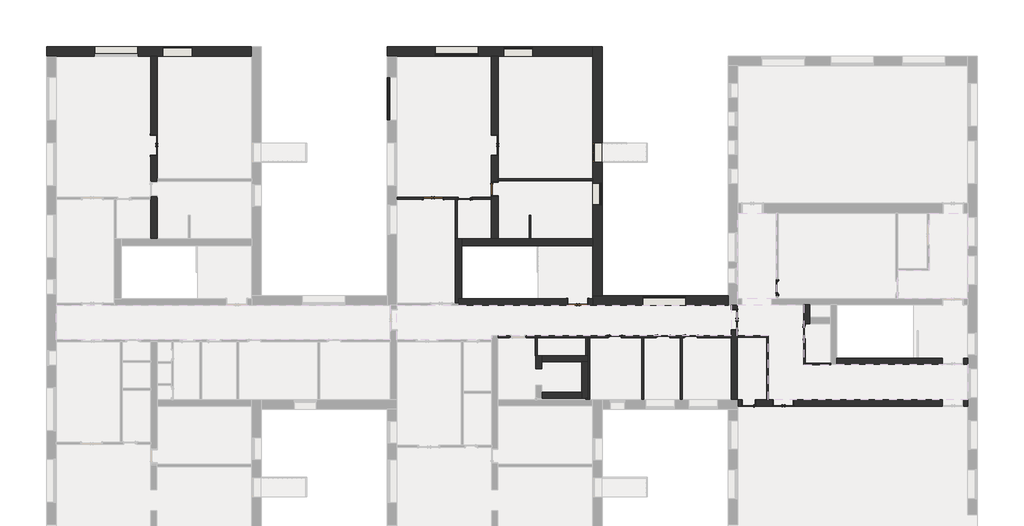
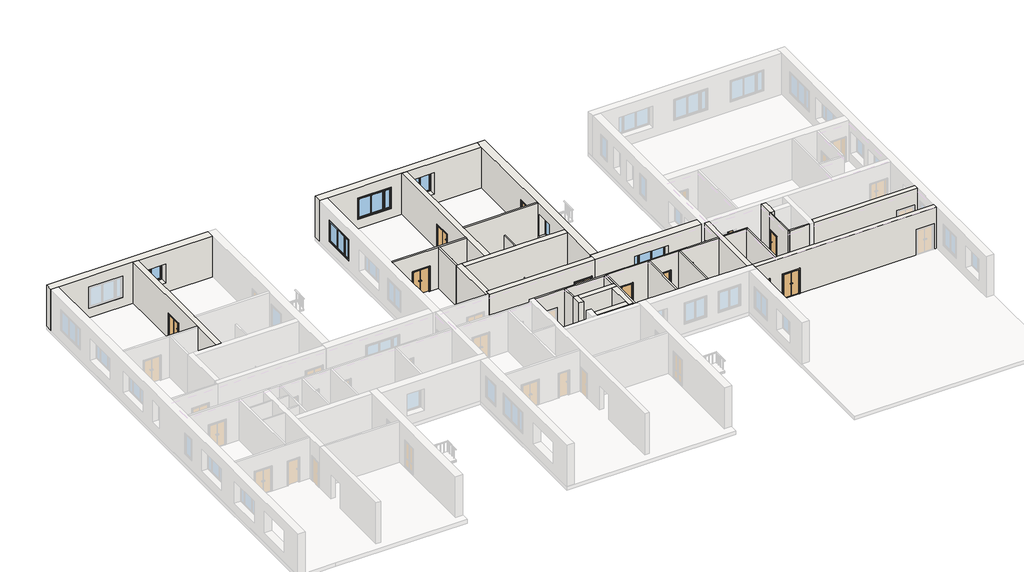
# One storey, part 3 of 4: 32 walls, 15 doors, 6 windows.
"""IFC4 building model written with IfcOpenShell, lengths in millimetres."""

from ifc_helpers import new_model, si_unit, frame, origin, place, context, project, spatial, polyline, outline, extrude, faceted_brep, transform, mapped, element, save
from components import door_6ba15531, door_6cda5d05, door_65913abd, door_dd7598a4, door_8e71c86a, door_276684d3, door_d1ce50e7, door_a652fb3b, door_3d735259, door_428ffb38, window_17d24cb2, window_91fb4078, window_825c4489, window_d8f3b313

model = new_model("IFC4")

# Units and contexts
model_context = context("Model", 3, world=origin())
ifc_project = project(units=[si_unit("LENGTHUNIT", "METRE", prefix="MILLI")], contexts=[model_context])

# Site, building, storey
site = spatial("IfcSite", under=ifc_project)
building = spatial("IfcBuilding", under=site)
storey = spatial("IfcBuildingStorey", under=building, Name="2 этаж", Elevation=3500.0)

# Doors
placement = place(None, origin())
door_shape = door_6ba15531(model_context)
element("IfcDoor", 1, ObjectType="Наружная дверь 2-Навесная - Один проем наружу с порогом - 31173-2003 : ДСН ДКН М2 2100-1300 ГОСТ 31173-2003", at=placement, inside=storey, context=model_context, shape_type="MappedRepresentation", body=[
    mapped(door_shape, transform((8337.6759979, 4.6370105, 3500.0), x_axis=(1.0, 0.0, 0.0), y_axis=(0.0, 1.0, 0.0), z_axis=(0.0, 0.0, 1.0))),
])
door_2_shape = door_6cda5d05(model_context)
element("IfcDoor", 2, ObjectType="Наружная дверь 2-Навесная - Один проем наружу с порогом - 31173-2003 : ДСН ДКН М2 2100-1300 ГОСТ 31173-2003", at=placement, inside=storey, context=model_context, shape_type="MappedRepresentation", body=[
    mapped(door_2_shape, transform((-13889.8240021, 13007.1370105, 3500.0), x_axis=(-1.0, 0.0, 0.0), y_axis=(0.0, -1.0, 0.0), z_axis=(0.0, 0.0, 1.0))),
])
door_3_shape = door_65913abd(model_context)
element("IfcDoor", 3, ObjectType="Наружная дверь 2-Навесная - Один проем наружу с порогом - 31173-2003 : ДСН ДКН М2 2100-1300 ГОСТ 31173-2003", at=placement, inside=storey, context=model_context, shape_type="MappedRepresentation", body=[
    mapped(door_3_shape, transform((5237.6759979, 5284.6370105, 3500.0), x_axis=(0.0, 1.0, 0.0), y_axis=(-1.0, 0.0, 0.0), z_axis=(0.0, 0.0, 1.0))),
])
door_4_shape = door_dd7598a4(model_context)
element("IfcDoor", 4, ObjectType="Наружная дверь 2-Навесная - Один проем наружу с порогом - 31173-2003 : ДСН ДКН М2 2100-1300 ГОСТ 31173-2003", at=placement, inside=storey, context=model_context, shape_type="MappedRepresentation", body=[
    mapped(door_4_shape, transform((-4712.3240021, 6434.6370105, 3500.0), x_axis=(1.0, 0.0, 0.0), y_axis=(0.0, 1.0, 0.0), z_axis=(0.0, 0.0, 1.0))),
])
element("IfcDoor", 5, ObjectType="Наружная дверь 2-Навесная - Один проем наружу с порогом - 31173-2003 : ДСН ДКН М2 2100-1300 ГОСТ 31173-2003", at=placement, inside=storey, context=model_context, shape_type="MappedRepresentation", body=[
    mapped(door_4_shape, transform((-9982.3240021, 16382.1370105, 3500.0), x_axis=(0.0, 1.0, 0.0), y_axis=(-1.0, 0.0, 0.0), z_axis=(0.0, 0.0, 1.0))),
])
element("IfcDoor", 6, ObjectType="Наружная дверь 2-Навесная - Один проем наружу с порогом - 31173-2003 : ДСН ДКН М2 2100-1300 ГОСТ 31173-2003", at=placement, inside=storey, context=model_context, shape_type="MappedRepresentation", body=[
    mapped(door_4_shape, transform((-31622.3240021, 16377.1370105, 3500.0), x_axis=(0.0, 1.0, 0.0), y_axis=(-1.0, 0.0, 0.0), z_axis=(0.0, 0.0, 1.0))),
])
door_5_shape = door_8e71c86a(model_context)
element("IfcDoor", 7, ObjectType="Внутренняя дверь 1-Навесная - 6629-88 : ДГ 21-9  ГОСТ 6629-88", at=placement, inside=storey, context=model_context, shape_type="MappedRepresentation", body=[
    mapped(door_5_shape, transform((9677.6759979, 4504.6370105, 3500.0), x_axis=(0.0, -1.0, 0.0), y_axis=(1.0, 0.0, 0.0), z_axis=(0.0, 0.0, 1.0))),
])
door_6_shape = door_276684d3(model_context)
element("IfcDoor", 8, ObjectType="Внутренняя дверь 1-Навесная - 6629-88 : ДГ 21-9  ГОСТ 6629-88", at=placement, inside=storey, context=model_context, shape_type="MappedRepresentation", body=[
    mapped(door_6_shape, transform((7960.1759979, 7334.6370105, 3500.0), x_axis=(0.0, 1.0, 0.0), y_axis=(-1.0, 0.0, 0.0), z_axis=(0.0, 0.0, 1.0))),
])
door_7_shape = door_d1ce50e7(model_context)
element("IfcDoor", 9, ObjectType="Внутренняя дверь 1-Навесная - 6629-88 : ДГ 21-9Л  ГОСТ 6629-88", at=placement, inside=storey, context=model_context, shape_type="MappedRepresentation", body=[
    mapped(door_7_shape, transform((-2359.3240021, 4232.1370105, 3500.0), x_axis=(-1.0, 0.0, 0.0), y_axis=(0.0, -1.0, 0.0), z_axis=(0.0, 0.0, 1.0))),
])
element("IfcDoor", 10, ObjectType="Внутренняя дверь 1-Навесная - 6629-88 : ДГ 21-9Л  ГОСТ 6629-88", at=placement, inside=storey, context=model_context, shape_type="MappedRepresentation", body=[
    mapped(door_7_shape, transform((695.1759979, 4232.1370105, 3500.0), x_axis=(-1.0, 0.0, 0.0), y_axis=(0.0, -1.0, 0.0), z_axis=(0.0, 0.0, 1.0))),
])
element("IfcDoor", 11, ObjectType="Внутренняя дверь 1-Навесная - 6629-88 : ДГ 21-9Л  ГОСТ 6629-88", at=placement, inside=storey, context=model_context, shape_type="MappedRepresentation", body=[
    mapped(door_7_shape, transform((2455.1759979, 4232.1370105, 3500.0), x_axis=(-1.0, 0.0, 0.0), y_axis=(0.0, -1.0, 0.0), z_axis=(0.0, 0.0, 1.0))),
])
door_8_shape = door_a652fb3b(model_context)
element("IfcDoor", 12, ObjectType="Внутренняя дверь 1-Навесная - 6629-88 : ДГ 21-9  ГОСТ 6629-88", at=placement, inside=storey, context=model_context, shape_type="MappedRepresentation", body=[
    mapped(door_8_shape, transform((6147.6759979, 4.6370105, 3500.0), x_axis=(-1.0, 0.0, 0.0), y_axis=(0.0, -1.0, 0.0), z_axis=(0.0, 0.0, 1.0))),
])
element("IfcDoor", 13, ObjectType="Внутренняя дверь 1-Навесная - 6629-88 : ДГ 21-9  ГОСТ 6629-88", at=placement, inside=storey, context=model_context, shape_type="MappedRepresentation", body=[
    mapped(door_6_shape, transform((-11869.8240021, 13007.1370105, 3500.0), x_axis=(-1.0, 0.0, 0.0), y_axis=(0.0, -1.0, 0.0), z_axis=(0.0, 0.0, 1.0))),
])
door_9_shape = door_3d735259(model_context)
element("IfcDoor", 14, ObjectType="Внутренняя дверь 1-Навесная - 6629-88 : ДГ 21-9  ГОСТ 6629-88", at=placement, inside=storey, context=model_context, shape_type="MappedRepresentation", body=[
    mapped(door_9_shape, transform((-9982.3240021, 13594.6370105, 3500.0), x_axis=(0.0, -1.0, 0.0), y_axis=(1.0, 0.0, 0.0), z_axis=(0.0, 0.0, 1.0))),
])
door_10_shape = door_428ffb38(model_context)
element("IfcDoor", 15, ObjectType="Балконная дверь 2-Распашная - Сдвоенные переплеты с остеклением - 11214-2003 : БД СП Д1 2175-1174-94 ГОСТ 11214-2003", at=placement, inside=storey, context=model_context, shape_type="MappedRepresentation", body=[
    mapped(door_10_shape, transform((-3467.3240021, 15922.1370105, 3500.0), x_axis=(0.0, 1.0, 0.0), y_axis=(-1.0, 0.0, 0.0), z_axis=(0.0, 0.0, 1.0))),
])

# Walls
element("IfcWall", 16, ObjectType="ADSK_Внутренняя_Кирпич_610", at=placement, inside=storey, context=model_context, shape_type="Brep", body=[
    faceted_brep([(-25412.3240021, 22644.6370105, 3500.0), (-38442.3240021, 22644.6370105, 3500.0), (-38442.3240021, 22644.6370105, 7000.0), (-25412.3240021, 22644.6370105, 7000.0), (-31077.3240021, 22644.6370105, 4300.0), (-29177.3240021, 22644.6370105, 4300.0), (-29177.3240021, 22644.6370105, 5900.0), (-31077.3240021, 22644.6370105, 5900.0), (-32657.3240021, 22644.6370105, 4300.0), (-32657.3240021, 22644.6370105, 6120.0), (-35387.3240021, 22644.6370105, 6120.0), (-35387.3240021, 22644.6370105, 4300.0), (-25412.3240021, 22034.6370105, 3500.0), (-25412.3240021, 22034.6370105, 7000.0), (-31412.3240021, 22034.6370105, 7000.0), (-31832.3240021, 22034.6370105, 7000.0), (-37832.3240021, 22034.6370105, 7000.0), (-38442.3240021, 22034.6370105, 7000.0), (-38442.3240021, 22034.6370105, 3500.0), (-37832.3240021, 22034.6370105, 3500.0), (-31832.3240021, 22034.6370105, 3500.0), (-31412.3240021, 22034.6370105, 3500.0), (-31077.3240021, 22034.6370105, 4300.0), (-31077.3240021, 22034.6370105, 5900.0), (-29177.3240021, 22034.6370105, 5900.0), (-29177.3240021, 22034.6370105, 4300.0), (-32657.3240021, 22034.6370105, 4300.0), (-35387.3240021, 22034.6370105, 4300.0), (-35387.3240021, 22034.6370105, 6120.0), (-32657.3240021, 22034.6370105, 6120.0)], [[[0, 1, 2, 3], [4, 5, 6, 7], [8, 9, 10, 11]], [[12, 13, 14, 15, 16, 17, 18, 19, 20, 21], [22, 23, 24, 25], [26, 27, 28, 29]], [[1, 0, 12, 21, 20, 19, 18]], [[0, 3, 13, 12]], [[23, 22, 4, 7]], [[24, 23, 7, 6]], [[25, 24, 6, 5]], [[22, 25, 5, 4]], [[2, 1, 18, 17]], [[9, 8, 26, 29]], [[10, 9, 29, 28]], [[11, 10, 28, 27]], [[8, 11, 27, 26]], [[3, 2, 17, 16, 15, 14, 13]]]),
])
element("IfcWall", 17, ObjectType="ADSK_Внутренняя_Кирпич_610", at=placement, inside=storey, context=model_context, shape_type="Brep", body=[
    faceted_brep([(4837.6759979, 6834.6370105, 3500.0), (-3162.3240021, 6834.6370105, 3500.0), (-3772.3240021, 6834.6370105, 3500.0), (-3772.3240021, 6834.6370105, 7000.0), (-3162.3240021, 6834.6370105, 7000.0), (4837.6759979, 6834.6370105, 7000.0), (-572.3240021, 6834.6370105, 4300.0), (2157.6759979, 6834.6370105, 4300.0), (2157.6759979, 6834.6370105, 6120.0), (-572.3240021, 6834.6370105, 6120.0), (4837.6759979, 6224.6370105, 3500.0), (4837.6759979, 6224.6370105, 7000.0), (-3772.3240021, 6224.6370105, 7000.0), (-3772.3240021, 6224.6370105, 3500.0), (-572.3240021, 6224.6370105, 4300.0), (-572.3240021, 6224.6370105, 6120.0), (2157.6759979, 6224.6370105, 6120.0), (2157.6759979, 6224.6370105, 4300.0), (-3772.3240021, 6644.6370105, 3500.0), (-3772.3240021, 6644.6370105, 7000.0)], [[[0, 1, 2, 3, 4, 5], [6, 7, 8, 9]], [[10, 11, 12, 13], [14, 15, 16, 17]], [[2, 1, 0, 10, 13, 18]], [[0, 5, 11, 10]], [[3, 2, 18, 13, 12, 19]], [[15, 14, 6, 9]], [[16, 15, 9, 8]], [[17, 16, 8, 7]], [[14, 17, 7, 6]], [[5, 4, 3, 19, 12, 11]]]),
])
element("IfcWall", 18, ObjectType="ADSK_Внутренняя_Кирпич_610", at=placement, inside=storey, context=model_context, shape_type="Brep", body=[
    faceted_brep([(-3162.3240021, 6834.6370105, 3500.0), (-3162.3240021, 22644.6370105, 3500.0), (-3162.3240021, 22644.6370105, 7000.0), (-3162.3240021, 16519.4362632, 7000.0), (-3162.3240021, 15097.1370105, 7000.0), (-3162.3240021, 6834.6370105, 7000.0), (-3162.3240021, 13977.1370105, 4300.0), (-3162.3240021, 12597.1370105, 4300.0), (-3162.3240021, 12597.1370105, 6120.0), (-3162.3240021, 13977.1370105, 6120.0), (-3162.3240021, 15305.1370105, 3600.0), (-3162.3240021, 15305.1370105, 5835.0), (-3162.3240021, 16539.1370105, 5835.0), (-3162.3240021, 16539.1370105, 3600.0), (-3772.3240021, 6834.6370105, 3500.0), (-3772.3240021, 6834.6370105, 7000.0), (-3772.3240021, 10006.8380679, 7000.0), (-3772.3240021, 10426.8380679, 7000.0), (-3772.3240021, 14109.6370105, 7000.0), (-3772.3240021, 14254.6370105, 7000.0), (-3772.3240021, 22034.6370105, 7000.0), (-3772.3240021, 22644.6370105, 7000.0), (-3772.3240021, 22644.6370105, 3500.0), (-3772.3240021, 22034.6370105, 3500.0), (-3772.3240021, 14254.6370105, 3500.0), (-3772.3240021, 14109.6370105, 3500.0), (-3772.3240021, 10426.8380679, 3500.0), (-3772.3240021, 10006.8380679, 3500.0), (-3772.3240021, 13977.1370105, 4300.0), (-3772.3240021, 13977.1370105, 6120.0), (-3772.3240021, 12597.1370105, 6120.0), (-3772.3240021, 12597.1370105, 4300.0), (-3772.3240021, 15305.1370105, 3600.0), (-3772.3240021, 16539.1370105, 3600.0), (-3772.3240021, 16539.1370105, 5835.0), (-3772.3240021, 15305.1370105, 5835.0)], [[[0, 1, 2, 3, 4, 5], [6, 7, 8, 9], [10, 11, 12, 13]], [[14, 15, 16, 17, 18, 19, 20, 21, 22, 23, 24, 25, 26, 27], [28, 29, 30, 31], [32, 33, 34, 35]], [[1, 0, 14, 27, 26, 25, 24, 23, 22]], [[0, 5, 15, 14]], [[2, 1, 22, 21]], [[29, 28, 6, 9]], [[30, 29, 9, 8]], [[31, 30, 8, 7]], [[28, 31, 7, 6]], [[11, 10, 32, 35]], [[12, 11, 35, 34]], [[13, 12, 34, 33]], [[10, 13, 33, 32]], [[5, 4, 3, 2, 21, 20, 19, 18, 17, 16, 15]]]),
])
element("IfcWall", 19, ObjectType="ADSK_Внутренняя_Кирпич_610", at=placement, inside=storey, context=model_context, shape_type="Brep", body=[
    faceted_brep([(-3772.3240021, 22644.6370105, 3500.0), (-16802.3240021, 22644.6370105, 3500.0), (-16802.3240021, 22644.6370105, 7000.0), (-3772.3240021, 22644.6370105, 7000.0), (-11017.3240021, 22644.6370105, 4300.0), (-11017.3240021, 22644.6370105, 6120.0), (-13747.3240021, 22644.6370105, 6120.0), (-13747.3240021, 22644.6370105, 4300.0), (-9397.3240021, 22644.6370105, 4300.0), (-7567.3240021, 22644.6370105, 4300.0), (-7567.3240021, 22644.6370105, 6120.0), (-9397.3240021, 22644.6370105, 6120.0), (-3772.3240021, 22034.6370105, 3500.0), (-3772.3240021, 22034.6370105, 7000.0), (-9772.3240021, 22034.6370105, 7000.0), (-10192.3240021, 22034.6370105, 7000.0), (-16192.3240021, 22034.6370105, 7000.0), (-16802.3240021, 22034.6370105, 7000.0), (-16802.3240021, 22034.6370105, 3500.0), (-16192.3240021, 22034.6370105, 3500.0), (-10192.3240021, 22034.6370105, 3500.0), (-9772.3240021, 22034.6370105, 3500.0), (-11017.3240021, 22034.6370105, 4300.0), (-13747.3240021, 22034.6370105, 4300.0), (-13747.3240021, 22034.6370105, 6120.0), (-11017.3240021, 22034.6370105, 6120.0), (-9397.3240021, 22034.6370105, 4300.0), (-9397.3240021, 22034.6370105, 6120.0), (-7567.3240021, 22034.6370105, 6120.0), (-7567.3240021, 22034.6370105, 4300.0)], [[[0, 1, 2, 3], [4, 5, 6, 7], [8, 9, 10, 11]], [[12, 13, 14, 15, 16, 17, 18, 19, 20, 21], [22, 23, 24, 25], [26, 27, 28, 29]], [[1, 0, 12, 21, 20, 19, 18]], [[0, 3, 13, 12]], [[2, 1, 18, 17]], [[5, 4, 22, 25]], [[6, 5, 25, 24]], [[7, 6, 24, 23]], [[4, 7, 23, 22]], [[27, 26, 8, 11]], [[28, 27, 11, 10]], [[29, 28, 10, 9]], [[26, 29, 9, 8]], [[3, 2, 17, 16, 15, 14, 13]]]),
])
element("IfcWall", 20, ObjectType="ADSK_Внутренняя_Кирпич_380+20х2", at=placement, inside=storey, context=model_context, shape_type="Brep", body=[
    faceted_brep([(-12282.3240021, 6224.6370105, 7000.0), (-12282.3240021, 6224.6370105, 3500.0), (-5382.3240021, 6224.6370105, 3500.0), (-5382.3240021, 6224.6370105, 5620.0), (-4042.3240021, 6224.6370105, 5620.0), (-4042.3240021, 6224.6370105, 3500.0), (-3772.3240021, 6224.6370105, 3500.0), (-3772.3240021, 6224.6370105, 7000.0), (-12282.3240021, 6644.6370105, 3500.0), (-12282.3240021, 6644.6370105, 7000.0), (-12072.3240021, 6644.6370105, 7000.0), (-3772.3240021, 6644.6370105, 7000.0), (-3772.3240021, 6644.6370105, 3500.0), (-4042.3240021, 6644.6370105, 3500.0), (-4042.3240021, 6644.6370105, 5620.0), (-5382.3240021, 6644.6370105, 5620.0), (-5382.3240021, 6644.6370105, 3500.0), (-12072.3240021, 6644.6370105, 3500.0), (-12282.3240021, 6349.6370105, 3500.0), (-12282.3240021, 6349.6370105, 7000.0)], [[[0, 1, 2, 3, 4, 5, 6, 7]], [[8, 9, 10, 11, 12, 13, 14, 15, 16, 17]], [[1, 18, 8, 17, 16, 2]], [[12, 6, 5, 13]], [[1, 0, 19, 9, 8, 18]], [[7, 6, 12, 11]], [[4, 14, 13, 5]], [[14, 4, 3, 15]], [[15, 3, 2, 16]], [[0, 7, 11, 10, 9, 19]]]),
])
element("IfcWall", 21, ObjectType="ADSK_Внутренняя_Кирпич_380+20х2", at=placement, inside=storey, context=model_context, shape_type="Brep", body=[
    faceted_brep([(-12072.3240021, 6644.6370105, 3500.0), (-12072.3240021, 10006.8380679, 3500.0), (-12072.3240021, 10426.8380679, 3500.0), (-12072.3240021, 10426.8380679, 7000.0), (-12072.3240021, 10006.8380679, 7000.0), (-12072.3240021, 6644.6370105, 7000.0), (-12492.3240021, 6349.6370105, 3500.0), (-12492.3240021, 6349.6370105, 7000.0), (-12492.3240021, 10426.8380679, 7000.0), (-12492.3240021, 10426.8380679, 3500.0), (-12282.3240021, 6644.6370105, 3500.0), (-12282.3240021, 6349.6370105, 3500.0), (-12367.3240021, 10426.8380679, 3500.0), (-12282.3240021, 6644.6370105, 7000.0), (-12282.3240021, 6349.6370105, 7000.0), (-12367.3240021, 10426.8380679, 7000.0)], [[[0, 1, 2, 3, 4, 5]], [[6, 7, 8, 9]], [[2, 1, 0, 10, 11, 6, 9, 12]], [[0, 5, 13, 10]], [[13, 14, 11, 10]], [[14, 7, 6, 11]], [[3, 2, 12, 9, 8, 15]], [[5, 4, 3, 15, 8, 7, 14, 13]]]),
])
element("IfcWall", 22, ObjectType="ADSK_Внутренняя_Кирпич_380+20х2", at=placement, inside=storey, context=model_context, shape_type="Brep", body=[
    faceted_brep([(-12072.3240021, 10006.8380679, 3500.0), (-3772.3240021, 10006.8380679, 3500.0), (-3772.3240021, 10006.8380679, 7000.0), (-12072.3240021, 10006.8380679, 7000.0), (-12072.3240021, 10426.8380679, 3500.0), (-12072.3240021, 10426.8380679, 7000.0), (-10192.3240021, 10426.8380679, 7000.0), (-9772.3240021, 10426.8380679, 7000.0), (-7790.3240021, 10426.8380679, 7000.0), (-7690.3240021, 10426.8380679, 7000.0), (-3772.3240021, 10426.8380679, 7000.0), (-3772.3240021, 10426.8380679, 3500.0), (-7690.3240021, 10426.8380679, 3500.0), (-7790.3240021, 10426.8380679, 3500.0), (-9772.3240021, 10426.8380679, 3500.0), (-10192.3240021, 10426.8380679, 3500.0)], [[[0, 1, 2, 3]], [[4, 5, 6, 7, 8, 9, 10, 11, 12, 13, 14, 15]], [[1, 0, 4, 15, 14, 13, 12, 11]], [[0, 3, 5, 4]], [[2, 1, 11, 10]], [[3, 2, 10, 9, 8, 7, 6, 5]]]),
])
element("IfcWall", 23, ObjectType="ADSK_Внутренняя_Кирпич_380+20х2", at=placement, inside=storey, context=model_context, shape_type="Brep", body=[
    faceted_brep([(-31832.3240021, 22034.6370105, 7000.0), (-31832.3240021, 22034.6370105, 3500.0), (-31832.3240021, 17047.1370105, 3500.0), (-31832.3240021, 17047.1370105, 5620.0), (-31832.3240021, 15707.1370105, 5620.0), (-31832.3240021, 15707.1370105, 3500.0), (-31832.3240021, 14047.1370105, 3500.0), (-31832.3240021, 14047.1370105, 5570.0), (-31832.3240021, 13137.1370105, 5570.0), (-31832.3240021, 13137.1370105, 3500.0), (-31832.3240021, 13069.6370105, 3500.0), (-31832.3240021, 12944.6370105, 3500.0), (-31832.3240021, 10424.6370105, 3500.0), (-31832.3240021, 10424.6370105, 7000.0), (-31832.3240021, 12944.6370105, 7000.0), (-31832.3240021, 13069.6370105, 7000.0), (-31412.3240021, 22034.6370105, 3500.0), (-31412.3240021, 22034.6370105, 7000.0), (-31412.3240021, 14249.6370105, 7000.0), (-31412.3240021, 14104.6370105, 7000.0), (-31412.3240021, 10424.6370105, 7000.0), (-31412.3240021, 10424.6370105, 3500.0), (-31412.3240021, 13137.1370105, 3500.0), (-31412.3240021, 13137.1370105, 5570.0), (-31412.3240021, 14047.1370105, 5570.0), (-31412.3240021, 14047.1370105, 3500.0), (-31412.3240021, 14104.6370105, 3500.0), (-31412.3240021, 14249.6370105, 3500.0), (-31412.3240021, 15707.1370105, 3500.0), (-31412.3240021, 15707.1370105, 5620.0), (-31412.3240021, 17047.1370105, 5620.0), (-31412.3240021, 17047.1370105, 3500.0)], [[[0, 1, 2, 3, 4, 5, 6, 7, 8, 9, 10, 11, 12, 13, 14, 15]], [[16, 17, 18, 19, 20, 21, 22, 23, 24, 25, 26, 27, 28, 29, 30, 31]], [[1, 16, 31, 2]], [[21, 12, 11, 10, 9, 22]], [[5, 28, 27, 26, 25, 6]], [[1, 0, 17, 16]], [[13, 12, 21, 20]], [[30, 3, 2, 31]], [[3, 30, 29, 4]], [[4, 29, 28, 5]], [[8, 23, 22, 9]], [[23, 8, 7, 24]], [[24, 7, 6, 25]], [[0, 15, 14, 13, 20, 19, 18, 17]]]),
])
element("IfcWall", 24, ObjectType="ADSK_Внутренняя_Кирпич_380+20х2", at=placement, inside=storey, context=model_context, shape_type="Brep", body=[
    faceted_brep([(-10192.3240021, 22034.6370105, 7000.0), (-10192.3240021, 22034.6370105, 3500.0), (-10192.3240021, 17052.1370105, 3500.0), (-10192.3240021, 17052.1370105, 5620.0), (-10192.3240021, 15712.1370105, 5620.0), (-10192.3240021, 15712.1370105, 3500.0), (-10192.3240021, 14049.6370105, 3500.0), (-10192.3240021, 14049.6370105, 5570.0), (-10192.3240021, 13139.6370105, 5570.0), (-10192.3240021, 13139.6370105, 3500.0), (-10192.3240021, 13069.6370105, 3500.0), (-10192.3240021, 12944.6370105, 3500.0), (-10192.3240021, 10426.8380679, 3500.0), (-10192.3240021, 10426.8380679, 7000.0), (-10192.3240021, 12944.6370105, 7000.0), (-10192.3240021, 13069.6370105, 7000.0), (-9772.3240021, 22034.6370105, 3500.0), (-9772.3240021, 22034.6370105, 7000.0), (-9772.3240021, 14254.6370105, 7000.0), (-9772.3240021, 14109.6370105, 7000.0), (-9772.3240021, 10426.8380679, 7000.0), (-9772.3240021, 10426.8380679, 3500.0), (-9772.3240021, 13139.6370105, 3500.0), (-9772.3240021, 13139.6370105, 5570.0), (-9772.3240021, 14049.6370105, 5570.0), (-9772.3240021, 14049.6370105, 3500.0), (-9772.3240021, 14109.6370105, 3500.0), (-9772.3240021, 14254.6370105, 3500.0), (-9772.3240021, 15712.1370105, 3500.0), (-9772.3240021, 15712.1370105, 5620.0), (-9772.3240021, 17052.1370105, 5620.0), (-9772.3240021, 17052.1370105, 3500.0)], [[[0, 1, 2, 3, 4, 5, 6, 7, 8, 9, 10, 11, 12, 13, 14, 15]], [[16, 17, 18, 19, 20, 21, 22, 23, 24, 25, 26, 27, 28, 29, 30, 31]], [[1, 16, 31, 2]], [[21, 12, 11, 10, 9, 22]], [[5, 28, 27, 26, 25, 6]], [[1, 0, 17, 16]], [[13, 12, 21, 20]], [[30, 3, 2, 31]], [[3, 30, 29, 4]], [[4, 29, 28, 5]], [[8, 23, 22, 9]], [[23, 8, 7, 24]], [[24, 7, 6, 25]], [[0, 15, 14, 13, 20, 19, 18, 17]]]),
])
element("IfcWall", 25, ObjectType="ADSK_Внутренняя_Перегородка_125+10х2", at=placement, inside=storey, context=model_context, shape_type="SweptSolid", body=[
    extrude(outline(polyline([(-9772.3240021, 14254.6370105), (-3772.3240021, 14254.6370105), (-3772.3240021, 14109.6370105), (-9772.3240021, 14109.6370105), (-9772.3240021, 14254.6370105)])), frame((0.0, 0.0, 3500.0), z_axis=(0.0, 0.0, 1.0), x_axis=(1.0, 0.0, 0.0)), (0.0, 0.0, 1.0), 3500.0),
])
element("IfcWall", 26, ObjectType="ADSK_Внутренняя_Перегородка_25_75_25", at=placement, inside=storey, context=model_context, shape_type="Brep", body=[
    faceted_brep([(-16192.3240021, 12944.6370105, 7000.0), (-16192.3240021, 12944.6370105, 3500.0), (-14559.8240021, 12944.6370105, 3500.0), (-14559.8240021, 12944.6370105, 5620.0), (-13219.8240021, 12944.6370105, 5620.0), (-13219.8240021, 12944.6370105, 3500.0), (-12492.3240021, 12944.6370105, 3500.0), (-12367.3240021, 12944.6370105, 3500.0), (-12324.8240021, 12944.6370105, 3500.0), (-12324.8240021, 12944.6370105, 5570.0), (-11414.8240021, 12944.6370105, 5570.0), (-11414.8240021, 12944.6370105, 3500.0), (-10192.3240021, 12944.6370105, 3500.0), (-10192.3240021, 12944.6370105, 7000.0), (-12367.3240021, 12944.6370105, 7000.0), (-12492.3240021, 12944.6370105, 7000.0), (-16192.3240021, 13069.6370105, 3500.0), (-16192.3240021, 13069.6370105, 7000.0), (-10192.3240021, 13069.6370105, 7000.0), (-10192.3240021, 13069.6370105, 3500.0), (-11414.8240021, 13069.6370105, 3500.0), (-11414.8240021, 13069.6370105, 5570.0), (-12324.8240021, 13069.6370105, 5570.0), (-12324.8240021, 13069.6370105, 3500.0), (-13219.8240021, 13069.6370105, 3500.0), (-13219.8240021, 13069.6370105, 5620.0), (-14559.8240021, 13069.6370105, 5620.0), (-14559.8240021, 13069.6370105, 3500.0)], [[[0, 1, 2, 3, 4, 5, 6, 7, 8, 9, 10, 11, 12, 13, 14, 15]], [[16, 17, 18, 19, 20, 21, 22, 23, 24, 25, 26, 27]], [[1, 16, 27, 2]], [[19, 12, 11, 20]], [[5, 24, 23, 8, 7, 6]], [[1, 0, 17, 16]], [[13, 12, 19, 18]], [[26, 3, 2, 27]], [[3, 26, 25, 4]], [[4, 25, 24, 5]], [[22, 9, 8, 23]], [[9, 22, 21, 10]], [[10, 21, 20, 11]], [[0, 15, 14, 13, 18, 17]]]),
])
element("IfcWall", 27, ObjectType="ADSK_Внутренняя_Перегородка_25_75_25", at=placement, inside=storey, context=model_context, shape_type="SweptSolid", body=[
    extrude(outline(polyline([(-12492.3240021, 10426.8380679), (-12492.3240021, 12944.6370105), (-12367.3240021, 12944.6370105), (-12367.3240021, 10426.8380679), (-12492.3240021, 10426.8380679)])), frame((0.0, 0.0, 3500.0), z_axis=(0.0, 0.0, 1.0), x_axis=(1.0, 0.0, 0.0)), (0.0, 0.0, 1.0), 3500.0),
])
element("IfcWall", 28, ObjectType="ADSK_Внутренняя_Перегородка_25_75_25", at=placement, inside=storey, context=model_context, shape_type="Brep", body=[
    faceted_brep([(-9792.3240021, 4169.6370105, 7000.0), (-9792.3240021, 4169.6370105, 3500.0), (-8966.8240021, 4169.6370105, 3500.0), (-8966.8240021, 4169.6370105, 5570.0), (-8056.8240021, 4169.6370105, 5570.0), (-8056.8240021, 4169.6370105, 3500.0), (-7414.3240021, 4169.6370105, 3500.0), (-7289.3240021, 4169.6370105, 3500.0), (-4204.3240021, 4169.6370105, 3500.0), (-4079.3240021, 4169.6370105, 3500.0), (-4061.8240021, 4169.6370105, 3500.0), (-3936.8240021, 4169.6370105, 3500.0), (-2814.3240021, 4169.6370105, 3500.0), (-2814.3240021, 4169.6370105, 5570.0), (-1904.3240021, 4169.6370105, 5570.0), (-1904.3240021, 4169.6370105, 3500.0), (-662.3240021, 4169.6370105, 3500.0), (-537.3240021, 4169.6370105, 3500.0), (240.1759979, 4169.6370105, 3500.0), (240.1759979, 4169.6370105, 5570.0), (1150.1759979, 4169.6370105, 5570.0), (1150.1759979, 4169.6370105, 3500.0), (1792.6759979, 4169.6370105, 3500.0), (1917.6759979, 4169.6370105, 3500.0), (2000.1759979, 4169.6370105, 3500.0), (2000.1759979, 4169.6370105, 5570.0), (2910.1759979, 4169.6370105, 5570.0), (2910.1759979, 4169.6370105, 3500.0), (5047.6759979, 4169.6370105, 3500.0), (5047.6759979, 4169.6370105, 7000.0), (1917.6759979, 4169.6370105, 7000.0), (1792.6759979, 4169.6370105, 7000.0), (-537.3240021, 4169.6370105, 7000.0), (-662.3240021, 4169.6370105, 7000.0), (-3936.8240021, 4169.6370105, 7000.0), (-4061.8240021, 4169.6370105, 7000.0), (-4079.3240021, 4169.6370105, 7000.0), (-4204.3240021, 4169.6370105, 7000.0), (-7289.3240021, 4169.6370105, 7000.0), (-7414.3240021, 4169.6370105, 7000.0), (-9792.3240021, 4294.6370105, 3500.0), (-9792.3240021, 4294.6370105, 7000.0), (5047.6759979, 4294.6370105, 7000.0), (5047.6759979, 4294.6370105, 3500.0), (2910.1759979, 4294.6370105, 3500.0), (2910.1759979, 4294.6370105, 5570.0), (2000.1759979, 4294.6370105, 5570.0), (2000.1759979, 4294.6370105, 3500.0), (1150.1759979, 4294.6370105, 3500.0), (1150.1759979, 4294.6370105, 5570.0), (240.1759979, 4294.6370105, 5570.0), (240.1759979, 4294.6370105, 3500.0), (-1904.3240021, 4294.6370105, 3500.0), (-1904.3240021, 4294.6370105, 5570.0), (-2814.3240021, 4294.6370105, 5570.0), (-2814.3240021, 4294.6370105, 3500.0), (-8056.8240021, 4294.6370105, 3500.0), (-8056.8240021, 4294.6370105, 5570.0), (-8966.8240021, 4294.6370105, 5570.0), (-8966.8240021, 4294.6370105, 3500.0)], [[[0, 1, 2, 3, 4, 5, 6, 7, 8, 9, 10, 11, 12, 13, 14, 15, 16, 17, 18, 19, 20, 21, 22, 23, 24, 25, 26, 27, 28, 29, 30, 31, 32, 33, 34, 35, 36, 37, 38, 39]], [[40, 41, 42, 43, 44, 45, 46, 47, 48, 49, 50, 51, 52, 53, 54, 55, 56, 57, 58, 59]], [[1, 40, 59, 2]], [[43, 28, 27, 44]], [[5, 56, 55, 12, 11, 10, 9, 8, 7, 6]], [[15, 52, 51, 18, 17, 16]], [[21, 48, 47, 24, 23, 22]], [[1, 0, 41, 40]], [[29, 28, 43, 42]], [[58, 3, 2, 59]], [[3, 58, 57, 4]], [[4, 57, 56, 5]], [[54, 13, 12, 55]], [[13, 54, 53, 14]], [[14, 53, 52, 15]], [[50, 19, 18, 51]], [[19, 50, 49, 20]], [[20, 49, 48, 21]], [[46, 25, 24, 47]], [[25, 46, 45, 26]], [[26, 45, 44, 27]], [[0, 39, 38, 37, 36, 35, 34, 33, 32, 31, 30, 29, 42, 41]]]),
])
element("IfcWall", 29, ObjectType="ADSK_Внутренняя_Перегородка_25_75_25", at=placement, inside=storey, context=model_context, shape_type="SweptSolid", body=[
    extrude(outline(polyline([(-662.3240021, 224.6370105), (-662.3240021, 4169.6370105), (-537.3240021, 4169.6370105), (-537.3240021, 224.6370105), (-662.3240021, 224.6370105)])), frame((0.0, 0.0, 3500.0), z_axis=(0.0, 0.0, 1.0), x_axis=(1.0, 0.0, 0.0)), (0.0, 0.0, 1.0), 3500.0),
])
element("IfcWall", 30, ObjectType="ADSK_Внутренняя_Перегородка_25_75_25", at=placement, inside=storey, context=model_context, shape_type="SweptSolid", body=[
    extrude(outline(polyline([(1792.6759979, 224.6370105), (1792.6759979, 4169.6370105), (1917.6759979, 4169.6370105), (1917.6759979, 224.6370105), (1792.6759979, 224.6370105)])), frame((0.0, 0.0, 3500.0), z_axis=(0.0, 0.0, 1.0), x_axis=(1.0, 0.0, 0.0)), (0.0, 0.0, 1.0), 3500.0),
])
element("IfcWall", 31, ObjectType="ADSK_Внутренняя_Перегородка_100", at=placement, inside=storey, context=model_context, shape_type="Brep", body=[
    faceted_brep([(5427.6759979, 4194.6370105, 3500.0), (7287.6759979, 4194.6370105, 3500.0), (7387.6759979, 4194.6370105, 3500.0), (7387.6759979, 4194.6370105, 7000.0), (7287.6759979, 4194.6370105, 7000.0), (5427.6759979, 4194.6370105, 7000.0), (5427.6759979, 4294.6370105, 3500.0), (5427.6759979, 4294.6370105, 7000.0), (7387.6759979, 4294.6370105, 7000.0), (7387.6759979, 4294.6370105, 3500.0)], [[[0, 1, 2, 3, 4, 5]], [[6, 7, 8, 9]], [[2, 1, 0, 6, 9]], [[3, 2, 9, 8]], [[0, 5, 7, 6]], [[5, 4, 3, 8, 7]]]),
])
element("IfcWall", 32, ObjectType="ADSK_Внутренняя_Перегородка_100", at=placement, inside=storey, context=model_context, shape_type="SweptSolid", body=[
    extrude(outline(polyline([(7287.6759979, 204.6370105), (7287.6759979, 4194.6370105), (7387.6759979, 4194.6370105), (7387.6759979, 204.6370105), (7287.6759979, 204.6370105)])), frame((0.0, 0.0, 3500.0), z_axis=(0.0, 0.0, 1.0), x_axis=(1.0, 0.0, 0.0)), (0.0, 0.0, 1.0), 3500.0),
])
element("IfcWall", 33, ObjectType="ADSK_Внутренняя_Кирпич_380", at=placement, inside=storey, context=model_context, shape_type="Brep", body=[
    faceted_brep([(5427.6759979, 224.6370105, 7000.0), (5427.6759979, 224.6370105, 3500.0), (5427.6759979, 4194.6370105, 3500.0), (5427.6759979, 4294.6370105, 3500.0), (5427.6759979, 4614.6370105, 3500.0), (5427.6759979, 4614.6370105, 5620.0), (5427.6759979, 5954.6370105, 5620.0), (5427.6759979, 5954.6370105, 3500.0), (5427.6759979, 6224.6370105, 3500.0), (5427.6759979, 6224.6370105, 7000.0), (5427.6759979, 4294.6370105, 7000.0), (5427.6759979, 4194.6370105, 7000.0), (5047.6759979, 224.6370105, 3500.0), (5047.6759979, 224.6370105, 7000.0), (5047.6759979, 4169.6370105, 7000.0), (5047.6759979, 4294.6370105, 7000.0), (5047.6759979, 6224.6370105, 7000.0), (5047.6759979, 6224.6370105, 3500.0), (5047.6759979, 5954.6370105, 3500.0), (5047.6759979, 5954.6370105, 5620.0), (5047.6759979, 4614.6370105, 5620.0), (5047.6759979, 4614.6370105, 3500.0), (5047.6759979, 4294.6370105, 3500.0), (5047.6759979, 4169.6370105, 3500.0)], [[[0, 1, 2, 3, 4, 5, 6, 7, 8, 9, 10, 11]], [[12, 13, 14, 15, 16, 17, 18, 19, 20, 21, 22, 23]], [[1, 12, 23, 22, 21, 4, 3, 2]], [[17, 8, 7, 18]], [[1, 0, 13, 12]], [[9, 8, 17, 16]], [[6, 19, 18, 7]], [[19, 6, 5, 20]], [[20, 5, 4, 21]], [[0, 11, 10, 9, 16, 15, 14, 13]]]),
])
element("IfcWall", 34, ObjectType="ADSK_Внутренняя_Кирпич_380+20", at=placement, inside=storey, context=model_context, shape_type="Brep", body=[
    faceted_brep([(5447.6759979, -195.3629895, 7000.0), (5447.6759979, -195.3629895, 3500.0), (5692.6759979, -195.3629895, 3500.0), (5692.6759979, -195.3629895, 5570.0), (6602.6759979, -195.3629895, 5570.0), (6602.6759979, -195.3629895, 3500.0), (7667.6759979, -195.3629895, 3500.0), (7667.6759979, -195.3629895, 5620.0), (9007.6759979, -195.3629895, 5620.0), (9007.6759979, -195.3629895, 3500.0), (18442.6759979, -195.3629895, 3500.0), (18442.6759979, -195.3629895, 5620.0), (19782.6759979, -195.3629895, 5620.0), (19782.6759979, -195.3629895, 3500.0), (20057.6759979, -195.3629895, 3500.0), (20057.6759979, -195.3629895, 7000.0), (5447.6759979, 204.6370105, 3500.0), (5447.6759979, 204.6370105, 7000.0), (7287.6759979, 204.6370105, 7000.0), (7387.6759979, 204.6370105, 7000.0), (20057.6759979, 204.6370105, 7000.0), (20057.6759979, 204.6370105, 3500.0), (19782.6759979, 204.6370105, 3500.0), (19782.6759979, 204.6370105, 5620.0), (18442.6759979, 204.6370105, 5620.0), (18442.6759979, 204.6370105, 3500.0), (9007.6759979, 204.6370105, 3500.0), (9007.6759979, 204.6370105, 5620.0), (7667.6759979, 204.6370105, 5620.0), (7667.6759979, 204.6370105, 3500.0), (7387.6759979, 204.6370105, 3500.0), (7287.6759979, 204.6370105, 3500.0), (6602.6759979, 204.6370105, 3500.0), (6602.6759979, 204.6370105, 5570.0), (5692.6759979, 204.6370105, 5570.0), (5692.6759979, 204.6370105, 3500.0)], [[[0, 1, 2, 3, 4, 5, 6, 7, 8, 9, 10, 11, 12, 13, 14, 15]], [[16, 17, 18, 19, 20, 21, 22, 23, 24, 25, 26, 27, 28, 29, 30, 31, 32, 33, 34, 35]], [[1, 16, 35, 2]], [[21, 14, 13, 22]], [[25, 10, 9, 26]], [[29, 6, 5, 32, 31, 30]], [[1, 0, 17, 16]], [[15, 14, 21, 20]], [[12, 23, 22, 13]], [[23, 12, 11, 24]], [[24, 11, 10, 25]], [[8, 27, 26, 9]], [[27, 8, 7, 28]], [[28, 7, 6, 29]], [[34, 3, 2, 35]], [[3, 34, 33, 4]], [[4, 33, 32, 5]], [[0, 15, 20, 19, 18, 17]]]),
])
element("IfcWall", 35, ObjectType="ADSK_Внутренняя_Перегородка_75_25x2", at=placement, inside=storey, context=model_context, shape_type="SweptSolid", body=[
    extrude(outline(polyline([(-3936.8240021, 4169.6370105), (-3936.8240021, 204.6370105), (-4061.8240021, 204.6370105), (-4061.8240021, 4169.6370105), (-3936.8240021, 4169.6370105)])), frame((0.0, 0.0, 3500.0), z_axis=(0.0, 0.0, 1.0), x_axis=(1.0, 0.0, 0.0)), (0.0, 0.0, 1.0), 3500.0),
])
element("IfcWall", 36, ObjectType="ADSK_Внутренняя_Перегородка_75_25x2", at=placement, inside=storey, context=model_context, shape_type="Brep", body=[
    faceted_brep([(-4204.3240021, 4169.6370105, 3500.0), (-4204.3240021, 3014.6370105, 3500.0), (-4204.3240021, 3014.6370105, 7000.0), (-4204.3240021, 4169.6370105, 7000.0), (-4079.3240021, 4169.6370105, 3500.0), (-4079.3240021, 4169.6370105, 7000.0), (-4079.3240021, 3014.6370105, 7000.0), (-4079.3240021, 3014.6370105, 3500.0), (-4082.3240021, 3014.6370105, 3500.0), (-4082.3240021, 3014.6370105, 7000.0)], [[[0, 1, 2, 3]], [[4, 5, 6, 7]], [[1, 0, 4, 7, 8]], [[0, 3, 5, 4]], [[2, 1, 8, 7, 6, 9]], [[3, 2, 9, 6, 5]]]),
])
element("IfcWall", 37, ObjectType="ADSK_Внутренняя_Перегородка_75_25x2", at=placement, inside=storey, context=model_context, shape_type="Brep", body=[
    faceted_brep([(-7414.3240021, 4169.6370105, 3500.0), (-7414.3240021, 3014.6370105, 3500.0), (-7414.3240021, 3014.6370105, 7000.0), (-7414.3240021, 4169.6370105, 7000.0), (-7289.3240021, 4169.6370105, 3500.0), (-7289.3240021, 4169.6370105, 7000.0), (-7289.3240021, 3014.6370105, 7000.0), (-7289.3240021, 3014.6370105, 3500.0), (-7392.3240021, 3014.6370105, 3500.0), (-7392.3240021, 3014.6370105, 7000.0)], [[[0, 1, 2, 3]], [[4, 5, 6, 7]], [[1, 0, 4, 7, 8]], [[0, 3, 5, 4]], [[2, 1, 8, 7, 6, 9]], [[3, 2, 9, 6, 5]]]),
])
element("IfcWall", 38, ObjectType="ADSK_Внутренняя_Перегородка_100", at=placement, inside=storey, context=model_context, shape_type="SweptSolid", body=[
    extrude(outline(polyline([(-7690.3240021, 11924.6370105), (-7690.3240021, 10426.8380679), (-7790.3240021, 10426.8380679), (-7790.3240021, 11924.6370105), (-7690.3240021, 11924.6370105)])), frame((0.0, 0.0, 3500.0), z_axis=(0.0, 0.0, 1.0), x_axis=(1.0, 0.0, 0.0)), (0.0, 0.0, 1.0), 3500.0),
])
element("IfcWall", 39, ObjectType="ADSK_Внутренняя_Кирпич_380+20", at=placement, inside=storey, context=model_context, shape_type="Brep", body=[
    faceted_brep([(9627.6759979, 6244.6370105, 3500.0), (9627.6759979, 5044.6370105, 3500.0), (9627.6759979, 5044.6370105, 7000.0), (9627.6759979, 6244.6370105, 7000.0), (10027.6759979, 6244.6370105, 3500.0), (10027.6759979, 6244.6370105, 7000.0), (10027.6759979, 5444.6370105, 7000.0), (10027.6759979, 5044.6370105, 7000.0), (10027.6759979, 5044.6370105, 3500.0), (10027.6759979, 5444.6370105, 3500.0), (9727.6759979, 5044.6370105, 3500.0), (9727.6759979, 5044.6370105, 7000.0)], [[[0, 1, 2, 3]], [[4, 5, 6, 7, 8, 9]], [[1, 0, 4, 9, 8, 10]], [[0, 3, 5, 4]], [[2, 1, 10, 8, 7, 11]], [[3, 2, 11, 7, 6, 5]]]),
])
element("IfcWall", 40, ObjectType="ADSK_Внутренняя_Перегородка_100", at=placement, inside=storey, context=model_context, shape_type="Brep", body=[
    faceted_brep([(9627.6759979, 5044.6370105, 7000.0), (9627.6759979, 5044.6370105, 3500.0), (9627.6759979, 4959.6370105, 3500.0), (9627.6759979, 4959.6370105, 5570.0), (9627.6759979, 4049.6370105, 5570.0), (9627.6759979, 4049.6370105, 3500.0), (9627.6759979, 2444.6370105, 3500.0), (9627.6759979, 2444.6370105, 7000.0), (9727.6759979, 5044.6370105, 3500.0), (9727.6759979, 5044.6370105, 7000.0), (9727.6759979, 2544.6370105, 7000.0), (9727.6759979, 2444.6370105, 7000.0), (9727.6759979, 2444.6370105, 3500.0), (9727.6759979, 2544.6370105, 3500.0), (9727.6759979, 4049.6370105, 3500.0), (9727.6759979, 4049.6370105, 5570.0), (9727.6759979, 4959.6370105, 5570.0), (9727.6759979, 4959.6370105, 3500.0)], [[[0, 1, 2, 3, 4, 5, 6, 7]], [[8, 9, 10, 11, 12, 13, 14, 15, 16, 17]], [[1, 8, 17, 2]], [[12, 6, 5, 14, 13]], [[1, 0, 9, 8]], [[7, 6, 12, 11]], [[4, 15, 14, 5]], [[15, 4, 3, 16]], [[16, 3, 2, 17]], [[0, 7, 11, 10, 9]]]),
])
element("IfcWall", 41, ObjectType="ADSK_Внутренняя_Перегородка_100", at=placement, inside=storey, context=model_context, shape_type="Brep", body=[
    faceted_brep([(9727.6759979, 2444.6370105, 3500.0), (11357.6759979, 2444.6370105, 3500.0), (11357.6759979, 2444.6370105, 7000.0), (9727.6759979, 2444.6370105, 7000.0), (9727.6759979, 2544.6370105, 3500.0), (9727.6759979, 2544.6370105, 7000.0), (11357.6759979, 2544.6370105, 7000.0), (11357.6759979, 2544.6370105, 3500.0), (11357.6759979, 2468.1849883, 3500.0), (11357.6759979, 2468.1849883, 7000.0)], [[[0, 1, 2, 3]], [[4, 5, 6, 7]], [[1, 0, 4, 7, 8]], [[0, 3, 5, 4]], [[2, 1, 8, 7, 6, 9]], [[3, 2, 9, 6, 5]]]),
])
element("IfcWall", 42, ObjectType="ADSK_Внутренняя_Кирпич_380", at=placement, inside=storey, context=model_context, shape_type="SweptSolid", body=[
    extrude(outline(polyline([(7000.0, 11737.6759979), (3500.0, 11737.6759979), (3500.0, 18442.6759979), (5620.0, 18442.6759979), (5620.0, 19782.6759979), (3500.0, 19782.6759979), (3500.0, 20057.6759979), (7000.0, 20057.6759979), (7000.0, 11737.6759979)])), frame((0.0, 2468.1849883, 0.0), z_axis=(0.0, 1.0, 0.0), x_axis=(0.0, 0.0, 1.0)), (0.0, 0.0, 1.0), 380.0),
])
element("IfcWall", 43, ObjectType="ADSK_Внутренняя_Перегородка_25_75_25", at=placement, inside=storey, context=model_context, shape_type="SweptSolid", body=[
    extrude(outline(polyline([(-4082.3240021, 299.6370105), (-4082.3240021, 204.6370105), (-4207.3240021, 204.6370105), (-4207.3240021, 299.6370105), (-4082.3240021, 299.6370105)])), frame((0.0, 0.0, 3500.0), z_axis=(0.0, 0.0, 1.0), x_axis=(1.0, 0.0, 0.0)), (0.0, 0.0, 1.0), 3500.0),
])
element("IfcWall", 44, ObjectType="ADSK_Внутренняя_Кирпич_380", at=placement, inside=storey, context=model_context, shape_type="Brep", body=[
    faceted_brep([(-7012.3240021, 2184.6370105, 3500.0), (-7012.3240021, 2634.6370105, 3500.0), (-7012.3240021, 3014.6370105, 3500.0), (-7012.3240021, 3014.6370105, 7000.0), (-7012.3240021, 2634.6370105, 7000.0), (-7012.3240021, 2184.6370105, 7000.0), (-7392.3240021, 2184.6370105, 3500.0), (-7392.3240021, 2184.6370105, 7000.0), (-7392.3240021, 3014.6370105, 7000.0), (-7392.3240021, 3014.6370105, 3500.0), (-7289.3240021, 3014.6370105, 3500.0), (-7289.3240021, 3014.6370105, 7000.0)], [[[0, 1, 2, 3, 4, 5]], [[6, 7, 8, 9]], [[2, 1, 0, 6, 9, 10]], [[0, 5, 7, 6]], [[3, 2, 10, 9, 8, 11]], [[5, 4, 3, 11, 8, 7]]]),
])
element("IfcWall", 45, ObjectType="ADSK_Внутренняя_Кирпич_380", at=placement, inside=storey, context=model_context, shape_type="Brep", body=[
    faceted_brep([(-7012.3240021, 2634.6370105, 3500.0), (-4462.3240021, 2634.6370105, 3500.0), (-4082.3240021, 2634.6370105, 3500.0), (-4082.3240021, 2634.6370105, 7000.0), (-4462.3240021, 2634.6370105, 7000.0), (-7012.3240021, 2634.6370105, 7000.0), (-7012.3240021, 3014.6370105, 3500.0), (-7012.3240021, 3014.6370105, 7000.0), (-4204.3240021, 3014.6370105, 7000.0), (-4082.3240021, 3014.6370105, 7000.0), (-4082.3240021, 3014.6370105, 3500.0), (-4204.3240021, 3014.6370105, 3500.0)], [[[0, 1, 2, 3, 4, 5]], [[6, 7, 8, 9, 10, 11]], [[2, 1, 0, 6, 11, 10]], [[0, 5, 7, 6]], [[3, 2, 10, 9]], [[5, 4, 3, 9, 8, 7]]]),
])
element("IfcWall", 46, ObjectType="ADSK_Внутренняя_Кирпич_380", at=placement, inside=storey, context=model_context, shape_type="Brep", body=[
    faceted_brep([(-4462.3240021, 2634.6370105, 3500.0), (-4462.3240021, 684.6370105, 3500.0), (-4462.3240021, 304.6370105, 3500.0), (-4462.3240021, 304.6370105, 7000.0), (-4462.3240021, 684.6370105, 7000.0), (-4462.3240021, 2634.6370105, 7000.0), (-4082.3240021, 2634.6370105, 3500.0), (-4082.3240021, 2634.6370105, 7000.0), (-4082.3240021, 304.6370105, 7000.0), (-4082.3240021, 304.6370105, 3500.0)], [[[0, 1, 2, 3, 4, 5]], [[6, 7, 8, 9]], [[2, 1, 0, 6, 9]], [[0, 5, 7, 6]], [[3, 2, 9, 8]], [[5, 4, 3, 8, 7]]]),
])
element("IfcWall", 47, ObjectType="ADSK_Внутренняя_Кирпич_380", at=placement, inside=storey, context=model_context, shape_type="SweptSolid", body=[
    extrude(outline(polyline([(-7012.3240021, 684.6370105), (-4462.3240021, 684.6370105), (-4462.3240021, 304.6370105), (-7012.3240021, 304.6370105), (-7012.3240021, 684.6370105)])), frame((0.0, 0.0, 3500.0), z_axis=(0.0, 0.0, 1.0), x_axis=(1.0, 0.0, 0.0)), (0.0, 0.0, 1.0), 3500.0),
])

# Windows
window_shape = window_17d24cb2(model_context)
element("IfcWindow", 48, ObjectType="Окно 3-Распашное - Разделенные наружные и парные внутренние переплеты с остеклением - ГОСТ 11214-2003 : ОД РСП Г1 1760-2670-138 ГОСТ 11214-2003", at=placement, inside=storey, context=model_context, shape_type="MappedRepresentation", body=[
    mapped(window_shape, transform((-16497.3240021, 19359.6370105, 3500.0), x_axis=(0.0, 1.0, 0.0), y_axis=(-1.0, 0.0, 0.0), z_axis=(0.0, 0.0, 1.0))),
])
element("IfcWindow", 49, ObjectType="Окно 3-Распашное - Разделенные наружные и парные внутренние переплеты с остеклением - ГОСТ 11214-2003 : ОД РСП Г1 1760-2670-138 ГОСТ 11214-2003", at=placement, inside=storey, context=model_context, shape_type="MappedRepresentation", body=[
    mapped(window_shape, transform((-12402.3240021, 22339.6370105, 3500.0), x_axis=(-1.0, 0.0, 0.0), y_axis=(0.0, -1.0, 0.0), z_axis=(0.0, 0.0, 1.0))),
])
element("IfcWindow", 50, ObjectType="Окно 3-Распашное - Разделенные наружные и парные внутренние переплеты с остеклением - ГОСТ 11214-2003 : ОД РСП Г1 1760-2670-138 ГОСТ 11214-2003", at=placement, inside=storey, context=model_context, shape_type="MappedRepresentation", body=[
    mapped(window_shape, transform((812.6759979, 6529.6370105, 3500.0), x_axis=(1.0, 0.0, 0.0), y_axis=(0.0, 1.0, 0.0), z_axis=(0.0, 0.0, 1.0))),
])
window_2_shape = window_91fb4078(model_context)
element("IfcWindow", 51, ObjectType="Окно 2-Распашное - Один переплет с многокамерным стеклопакетом - 30674-99 : ОП Д2  1500-1800 (4M1-16-4M1)  ГОСТ 30674-99", at=placement, inside=storey, context=model_context, shape_type="MappedRepresentation", body=[
    mapped(window_2_shape, transform((-30127.3240021, 22339.6370105, 3500.0), x_axis=(1.0, 0.0, 0.0), y_axis=(0.0, 1.0, 0.0), z_axis=(0.0, 0.0, 1.0))),
])
window_3_shape = window_825c4489(model_context)
element("IfcWindow", 52, ObjectType="Окно 2-Распашное - Разделенные наружные и парные внутренние переплеты с остеклением - ГОСТ 11214-2003 : ОД РСП Г1 1760-1770-138 ГОСТ 11214-2003", at=placement, inside=storey, context=model_context, shape_type="MappedRepresentation", body=[
    mapped(window_3_shape, transform((-8462.3240021, 22339.6370105, 3500.0), x_axis=(1.0, 0.0, 0.0), y_axis=(0.0, 1.0, 0.0), z_axis=(0.0, 0.0, 1.0))),
])
window_4_shape = window_d8f3b313(model_context)
element("IfcWindow", 53, ObjectType="Окно 1-Распашное - Разделенные наружные и парные внутренние переплеты с остеклением - ГОСТ 11214-2003 : ОД РСП Г1 1760-1320-138 ГОСТ 11214-2003", at=placement, inside=storey, context=model_context, shape_type="MappedRepresentation", body=[
    mapped(window_4_shape, transform((-3467.3240021, 13267.1370105, 3500.0), x_axis=(0.0, -1.0, 0.0), y_axis=(1.0, 0.0, 0.0), z_axis=(0.0, 0.0, 1.0))),
])

save(model, "model.ifc")
